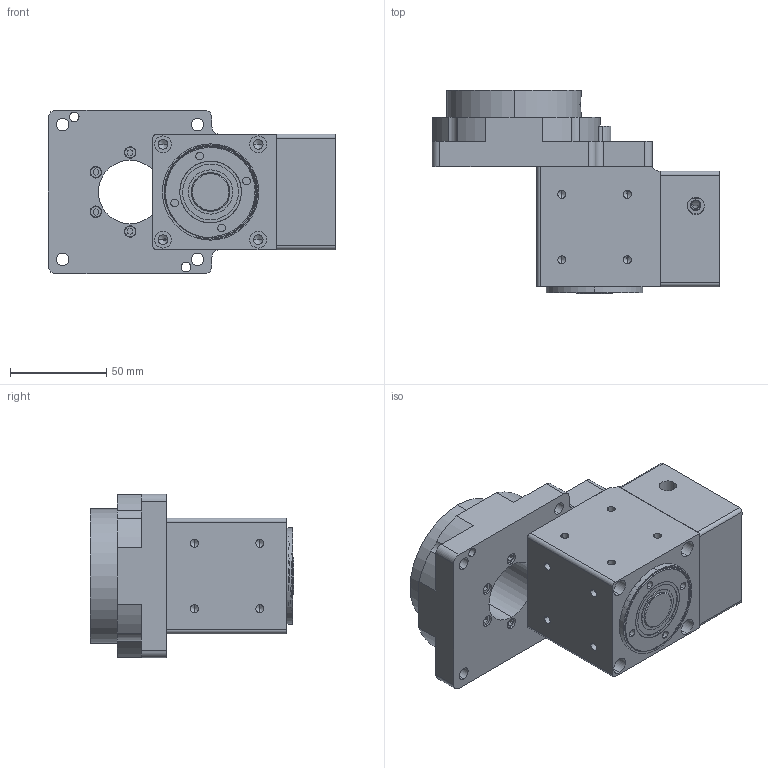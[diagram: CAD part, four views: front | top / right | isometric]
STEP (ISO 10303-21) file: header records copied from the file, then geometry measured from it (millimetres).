
FILE_DESCRIPTION (( 'STEP AP203' ), '1' );
FILE_NAME ('NTFA085-10-14-50-70-M4.STEP', '2024-06-25T07:42:06', ( 'Windows User' ), ( 'P R C' ), 'SwSTEP 2.0', 'SolidWorks 2016', '' );
FILE_SCHEMA (( 'CONFIG_CONTROL_DESIGN' ));
Length unit declared in the file: millimetre
Products named in the file (12): 標杶; NTFA085-10K加转向器一体(配400W伺服输入14-30 50-5 4-M4-70)-01; 6003_Rolling bearings 6003 GB 276-94; 怀堤粣; 褲极; 綴楊擘1; 输入轴; 20-32-5蚐猾; 蹟譫; NTFA085-10K加转向器一体(配400W伺服输入14-30 50-5 4-M4-70)-02; 30204_Rolling bearings 30204 GB 297-94; NTFA085-10-14-50-70-M4
Assembly tree (14 placements, depth 3):
  NTFA085-10-14-50-70-M4
    NTFA085-10K加转向器一体(配400W伺服输入14-30 50-5 4-M4-70)-01
    NTFA085-10K加转向器一体(配400W伺服输入14-30 50-5 4-M4-70)-02
      6003_Rolling bearings 6003 GB 276-94
      褲极
      输入轴
      蹟譫  x2
      30204_Rolling bearings 30204 GB 297-94  x2
      標杶
      怀堤粣
      綴楊擘1
      20-32-5蚐猾  x2
Bounding box: 149.3 x 105.5 x 85 mm (x, y, z)
Volume: 465232.4 mm3; surface area: 151196.9 mm2
Topology: 27 solids, 33 shells, 1702 faces, 5119 edges, 3341 vertices
Faces by surface type: plane 678, cylinder 370, torus 220, bspline 212, cone 188, sphere 34
Entity records: 70208 total; most frequent: CARTESIAN_POINT 32084, ORIENTED_EDGE 8282, DIRECTION 6824, EDGE_CURVE 4141, VERTEX_POINT 2750, AXIS2_PLACEMENT_3D 2487, LINE 1850, VECTOR 1850
